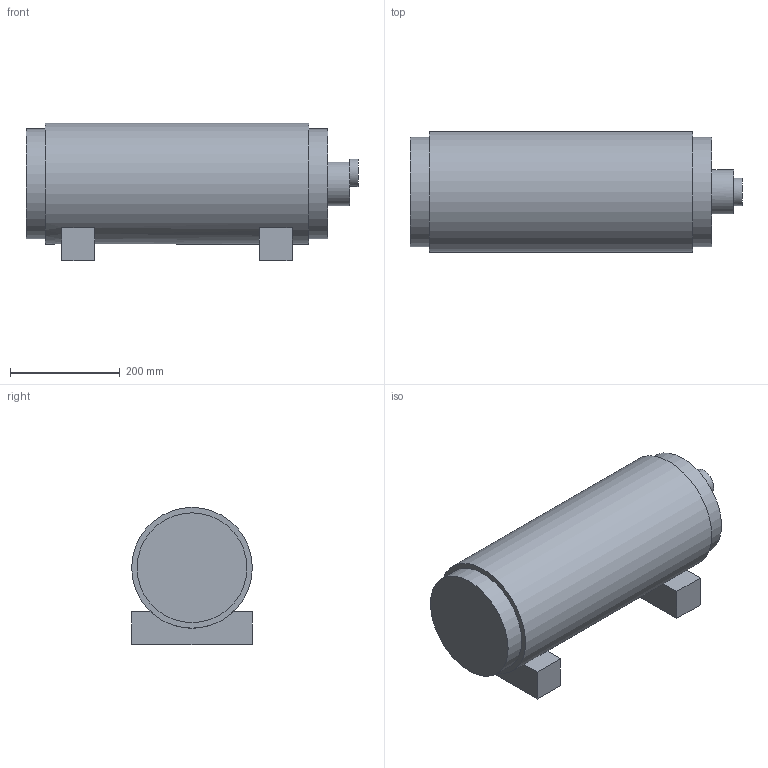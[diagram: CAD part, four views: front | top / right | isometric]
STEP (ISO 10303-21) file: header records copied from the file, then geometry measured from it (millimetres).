
FILE_DESCRIPTION(/* description */ (''),/* implementation_level */ '2;1');
FILE_NAME(/* name */ 'o2_tank.step',/* time_stamp */ '2026-11-14T21:11:03+01:00',/* author */ ('malgo'),/* organization */ (''),/* preprocessor_version */ 'ST-DEVELOPER v20.1',/* originating_system */ 'Autodesk Inventor 2026',/* authorisation */ '');
FILE_SCHEMA (('AUTOMOTIVE_DESIGN { 1 0 10303 214 3 1 1 }'));
Length unit declared in the file: metre
Products named in the file (1): o2_tank
Bounding box: 605 x 220 x 250 mm (x, y, z)
Volume: 22073204.1 mm3; surface area: 559197.1 mm2
Topology: 2 solids, 2 shells, 25 faces, 49 edges, 32 vertices
Faces by surface type: plane 20, cylinder 5
Full cylindrical faces by diameter (mm): 50 x1, 80 x1, 200 x2, 220 x1
Entity records: 679 total; most frequent: DIRECTION 117, CARTESIAN_POINT 107, ORIENTED_EDGE 98, EDGE_CURVE 49, AXIS2_PLACEMENT_3D 42, LINE 33, VECTOR 33, VERTEX_POINT 32
